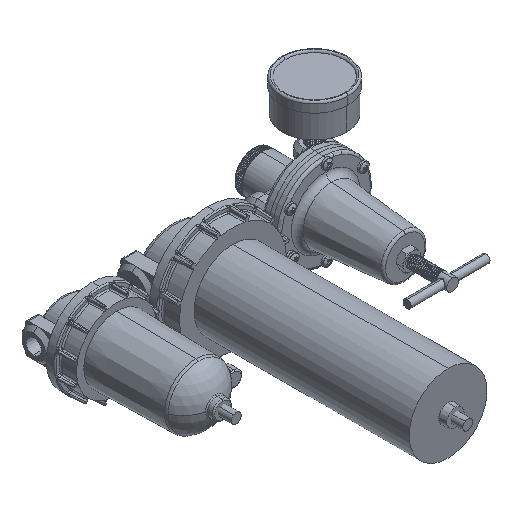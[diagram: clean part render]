
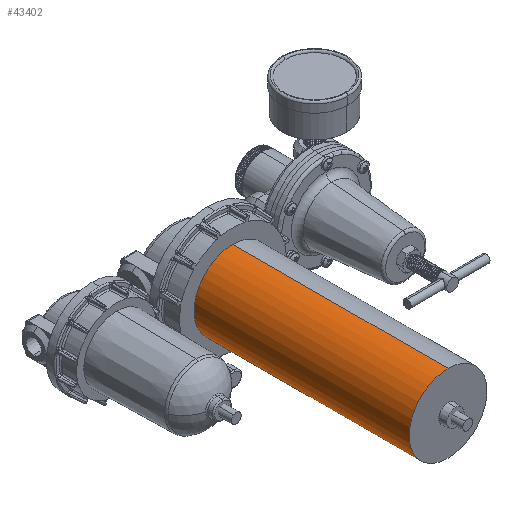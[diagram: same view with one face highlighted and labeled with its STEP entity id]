
A CAD part, isometric view. The second image highlights one B-rep face of the part: STEP entity #43402.
In plain terms, the highlighted cylindrical face has radius 31.5 mm (diameter 63 mm), a partial arc.
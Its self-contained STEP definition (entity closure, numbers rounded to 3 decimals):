
#226 = DIRECTION ( 'NONE',  ( 0., -1., 0. ) ) ;
#1136 = ORIENTED_EDGE ( 'NONE', *, *, #52875, .F. ) ;
#3854 = CARTESIAN_POINT ( 'NONE',  ( 0., 174.5, 31.5 ) ) ;
#4695 = CARTESIAN_POINT ( 'NONE',  ( 0., 174.5, -31.5 ) ) ;
#4710 = DIRECTION ( 'NONE',  ( 0., 1., 0. ) ) ;
#7142 = EDGE_CURVE ( 'NONE', #10423, #25177, #29198, .T. ) ;
#8423 = VERTEX_POINT ( 'NONE', #35348 ) ;
#8841 = DIRECTION ( 'NONE',  ( 0., 0., 1. ) ) ;
#10423 = VERTEX_POINT ( 'NONE', #30304 ) ;
#11897 = ORIENTED_EDGE ( 'NONE', *, *, #7142, .F. ) ;
#12359 = VECTOR ( 'NONE', #14535, 1000. ) ;
#14535 = DIRECTION ( 'NONE',  ( 0., -1., 0. ) ) ;
#14978 = CIRCLE ( 'NONE', #52230, 31.5 ) ;
#15609 = AXIS2_PLACEMENT_3D ( 'NONE', #48482, #26940, #8841 ) ;
#16602 = CIRCLE ( 'NONE', #15609, 31.5 ) ;
#18586 = ORIENTED_EDGE ( 'NONE', *, *, #29400, .T. ) ;
#21814 = CARTESIAN_POINT ( 'NONE',  ( 0., 0., 0. ) ) ;
#22585 = LINE ( 'NONE', #4695, #12359 ) ;
#24642 = ORIENTED_EDGE ( 'NONE', *, *, #43325, .T. ) ;
#25177 = VERTEX_POINT ( 'NONE', #30129 ) ;
#26940 = DIRECTION ( 'NONE',  ( 0., 1., 0. ) ) ;
#29198 = LINE ( 'NONE', #3854, #31185 ) ;
#29400 = EDGE_CURVE ( 'NONE', #39061, #25177, #14978, .T. ) ;
#30129 = CARTESIAN_POINT ( 'NONE',  ( 0., 0., 31.5 ) ) ;
#30304 = CARTESIAN_POINT ( 'NONE',  ( 0., 174.5, 31.5 ) ) ;
#31185 = VECTOR ( 'NONE', #226, 1000. ) ;
#32278 = DIRECTION ( 'NONE',  ( 0., 0., -1. ) ) ;
#33941 = AXIS2_PLACEMENT_3D ( 'NONE', #43762, #52666, #32278 ) ;
#35087 = DIRECTION ( 'NONE',  ( 0., 0., 1. ) ) ;
#35348 = CARTESIAN_POINT ( 'NONE',  ( 0., 174.5, -31.5 ) ) ;
#37556 = CARTESIAN_POINT ( 'NONE',  ( 0., 0., -31.5 ) ) ;
#39061 = VERTEX_POINT ( 'NONE', #37556 ) ;
#43325 = EDGE_CURVE ( 'NONE', #8423, #39061, #22585, .T. ) ;
#43402 = ADVANCED_FACE ( 'NONE', ( #46959 ), #44193, .T. ) ;
#43762 = CARTESIAN_POINT ( 'NONE',  ( 0., 174.5, 0. ) ) ;
#44193 = CYLINDRICAL_SURFACE ( 'NONE', #33941, 31.5 ) ;
#46959 = FACE_OUTER_BOUND ( 'NONE', #53289, .T. ) ;
#48482 = CARTESIAN_POINT ( 'NONE',  ( 0., 174.5, 0. ) ) ;
#52230 = AXIS2_PLACEMENT_3D ( 'NONE', #21814, #4710, #35087 ) ;
#52666 = DIRECTION ( 'NONE',  ( 0., -1., 0. ) ) ;
#52875 = EDGE_CURVE ( 'NONE', #8423, #10423, #16602, .T. ) ;
#53289 = EDGE_LOOP ( 'NONE', ( #11897, #1136, #24642, #18586 ) ) ;
